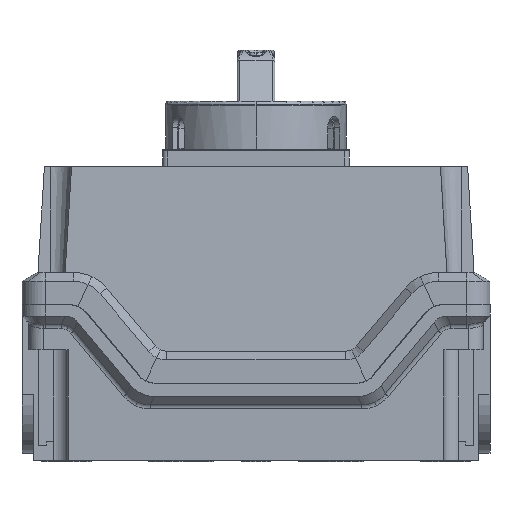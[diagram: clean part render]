
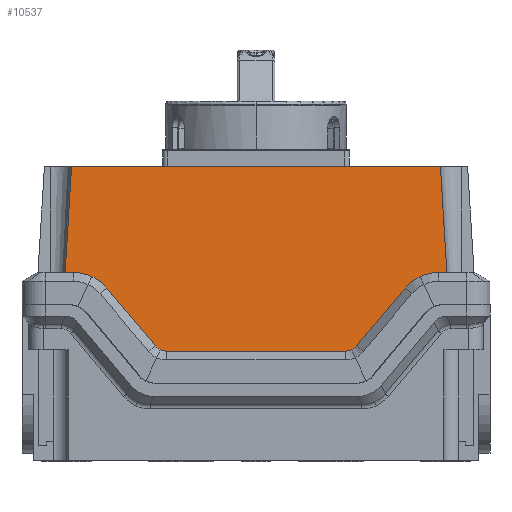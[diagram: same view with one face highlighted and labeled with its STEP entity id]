
A CAD part, front view. The second image highlights one B-rep face of the part: STEP entity #10537.
In plain terms, the highlighted planar face has unit normal (0, -0.998, 0.061).
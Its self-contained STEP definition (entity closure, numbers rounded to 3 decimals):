
#514 = VECTOR ( 'NONE', #39212, 1000. ) ;
#850 = CARTESIAN_POINT ( 'NONE',  ( 62.671, -56.376, 64.5 ) ) ;
#2661 = CARTESIAN_POINT ( 'NONE',  ( 77.15, -58.7, 26.5 ) ) ;
#2785 = ORIENTED_EDGE ( 'NONE', *, *, #31390, .F. ) ;
#4115 = CARTESIAN_POINT ( 'NONE',  ( 32.192, -58.027, 37.5 ) ) ;
#5762 = ORIENTED_EDGE ( 'NONE', *, *, #55503, .T. ) ;
#6066 = EDGE_CURVE ( 'NONE', #25078, #40819, #27799, .T. ) ;
#6065 = CARTESIAN_POINT ( 'NONE',  ( -63.28, -54.156, 100.8 ) ) ;
#6394 = DIRECTION ( 'NONE',  ( 0.061, 0.061, 0.996 ) ) ;
#6580 = CARTESIAN_POINT ( 'NONE',  ( -67.286, -58.162, 35.301 ) ) ;
#6702 = DIRECTION ( 'NONE',  ( -0.642, -0.047, -0.765 ) ) ;
#6720 = DIRECTION ( 'NONE',  ( -1., 0., 0. ) ) ;
#7064 =( BOUNDED_CURVE ( )  B_SPLINE_CURVE ( 3, ( #21037, #34830, #57541, #16496 ),
 .UNSPECIFIED., .F., .F. ) 
 B_SPLINE_CURVE_WITH_KNOTS ( ( 4, 4 ),
 ( 2.269, 3.142 ),
 .UNSPECIFIED. ) 
 CURVE ( )  GEOMETRIC_REPRESENTATION_ITEM ( )  RATIONAL_B_SPLINE_CURVE ( ( 1., 0.938, 0.938, 1. ) ) 
 REPRESENTATION_ITEM ( '' )  );
#8376 = CARTESIAN_POINT ( 'NONE',  ( 51.18, -56.704, 59.142 ) ) ;
#9516 = VERTEX_POINT ( 'NONE', #39191 ) ;
#9964 = LINE ( 'NONE', #45528, #11989 ) ;
#9969 = AXIS2_PLACEMENT_3D ( 'NONE', #2661, #43148, #34071 ) ;
#10127 = VERTEX_POINT ( 'NONE', #26873 ) ;
#10537 = ADVANCED_FACE ( 'NONE', ( #47519 ), #30138, .T. ) ;
#11769 = CARTESIAN_POINT ( 'NONE',  ( 51.18, -56.704, 59.142 ) ) ;
#11989 = VECTOR ( 'NONE', #50121, 1000. ) ;
#12350 = CARTESIAN_POINT ( 'NONE',  ( 58.163, -56.376, 64.5 ) ) ;
#12512 = CARTESIAN_POINT ( 'NONE',  ( 63.28, -54.156, 100.8 ) ) ;
#12535 = VERTEX_POINT ( 'NONE', #45336 ) ;
#12760 = ORIENTED_EDGE ( 'NONE', *, *, #27331, .T. ) ;
#12900 = CARTESIAN_POINT ( 'NONE',  ( 30.689, -58.027, 37.5 ) ) ;
#12966 = CARTESIAN_POINT ( 'NONE',  ( -62.671, -56.376, 64.5 ) ) ;
#13072 = LINE ( 'NONE', #57197, #514 ) ;
#13267 = VERTEX_POINT ( 'NONE', #12900 ) ;
#13393 = VECTOR ( 'NONE', #48901, 1000. ) ;
#14040 = DIRECTION ( 'NONE',  ( -0.642, 0.047, 0.765 ) ) ;
#14065 = LINE ( 'NONE', #15333, #16895 ) ;
#14193 = CARTESIAN_POINT ( 'NONE',  ( -34.519, -57.918, 39.286 ) ) ;
#15005 =( BOUNDED_CURVE ( )  B_SPLINE_CURVE ( 3, ( #21987, #4115, #53545, #58077 ),
 .UNSPECIFIED., .F., .F. ) 
 B_SPLINE_CURVE_WITH_KNOTS ( ( 4, 4 ),
 ( 3.142, 4.014 ),
 .UNSPECIFIED. ) 
 CURVE ( )  GEOMETRIC_REPRESENTATION_ITEM ( )  RATIONAL_B_SPLINE_CURVE ( ( 1., 0.938, 0.938, 1. ) ) 
 REPRESENTATION_ITEM ( '' )  );
#15253 = VECTOR ( 'NONE', #6720, 1000. ) ;
#15333 = CARTESIAN_POINT ( 'NONE',  ( 45.789, -57.097, 52.717 ) ) ;
#16496 = CARTESIAN_POINT ( 'NONE',  ( -30.689, -58.027, 37.5 ) ) ;
#16895 = VECTOR ( 'NONE', #6702, 1000. ) ;
#17114 = CARTESIAN_POINT ( 'NONE',  ( -54.078, -56.492, 62.595 ) ) ;
#18606 = EDGE_CURVE ( 'NONE', #13267, #26806, #15005, .T. ) ;
#18986 = DIRECTION ( 'NONE',  ( -1., 0., 0. ) ) ;
#19355 = ORIENTED_EDGE ( 'NONE', *, *, #31829, .F. ) ;
#19452 = LINE ( 'NONE', #6580, #26569 ) ;
#19539 = EDGE_LOOP ( 'NONE', ( #2785, #12760, #22691, #42498, #50560, #54198, #52427, #33024, #5762, #25484, #19355, #39687 ) ) ;
#21037 = CARTESIAN_POINT ( 'NONE',  ( -34.519, -57.918, 39.286 ) ) ;
#21987 = CARTESIAN_POINT ( 'NONE',  ( 30.689, -58.027, 37.5 ) ) ;
#22234 = VECTOR ( 'NONE', #18986, 1000. ) ;
#22426 = EDGE_CURVE ( 'NONE', #25078, #26806, #14065, .T. ) ;
#22691 = ORIENTED_EDGE ( 'NONE', *, *, #24847, .F. ) ;
#23539 = LINE ( 'NONE', #45383, #41133 ) ;
#24847 = EDGE_CURVE ( 'NONE', #13267, #33329, #30695, .T. ) ;
#24872 = VERTEX_POINT ( 'NONE', #51713 ) ;
#25078 = VERTEX_POINT ( 'NONE', #8376 ) ;
#25484 = ORIENTED_EDGE ( 'NONE', *, *, #33531, .F. ) ;
#26569 = VECTOR ( 'NONE', #6394, 1000. ) ;
#26806 = VERTEX_POINT ( 'NONE', #39299 ) ;
#26873 = CARTESIAN_POINT ( 'NONE',  ( -62.671, -56.376, 64.5 ) ) ;
#27331 = EDGE_CURVE ( 'NONE', #49758, #33329, #7064, .T. ) ;
#27799 =( BOUNDED_CURVE ( )  B_SPLINE_CURVE ( 3, ( #11769, #38941, #12350, #52608 ),
 .UNSPECIFIED., .F., .F. ) 
 B_SPLINE_CURVE_WITH_KNOTS ( ( 4, 4 ),
 ( 2.269, 3.142 ),
 .UNSPECIFIED. ) 
 CURVE ( )  GEOMETRIC_REPRESENTATION_ITEM ( )  RATIONAL_B_SPLINE_CURVE ( ( 1., 0.938, 0.938, 1. ) ) 
 REPRESENTATION_ITEM ( '' )  );
#30138 = PLANE ( 'NONE',  #9969 ) ;
#30695 = LINE ( 'NONE', #46003, #22234 ) ;
#30711 = CARTESIAN_POINT ( 'NONE',  ( -58.163, -56.376, 64.5 ) ) ;
#31390 = EDGE_CURVE ( 'NONE', #49758, #12535, #23539, .T. ) ;
#31829 = EDGE_CURVE ( 'NONE', #10127, #9516, #9964, .T. ) ;
#33024 = ORIENTED_EDGE ( 'NONE', *, *, #33617, .F. ) ;
#33329 = VERTEX_POINT ( 'NONE', #45784 ) ;
#33531 = EDGE_CURVE ( 'NONE', #9516, #53437, #19452, .T. ) ;
#33617 = EDGE_CURVE ( 'NONE', #38183, #24872, #13072, .T. ) ;
#34071 = DIRECTION ( 'NONE',  ( 0., -0.061, -0.998 ) ) ;
#34830 = CARTESIAN_POINT ( 'NONE',  ( -33.553, -57.988, 38.135 ) ) ;
#37344 = LINE ( 'NONE', #39556, #13393 ) ;
#37356 =( BOUNDED_CURVE ( )  B_SPLINE_CURVE ( 3, ( #12966, #30711, #17114, #48699 ),
 .UNSPECIFIED., .F., .F. ) 
 B_SPLINE_CURVE_WITH_KNOTS ( ( 4, 4 ),
 ( 0., 0.873 ),
 .UNSPECIFIED. ) 
 CURVE ( )  GEOMETRIC_REPRESENTATION_ITEM ( )  RATIONAL_B_SPLINE_CURVE ( ( 1., 0.938, 0.938, 1. ) ) 
 REPRESENTATION_ITEM ( '' )  );
#38183 = VERTEX_POINT ( 'NONE', #12512 ) ;
#38941 = CARTESIAN_POINT ( 'NONE',  ( 54.078, -56.492, 62.595 ) ) ;
#39191 = CARTESIAN_POINT ( 'NONE',  ( -65.5, -56.376, 64.5 ) ) ;
#39212 = DIRECTION ( 'NONE',  ( 0.061, -0.061, -0.996 ) ) ;
#39299 = CARTESIAN_POINT ( 'NONE',  ( 34.519, -57.918, 39.286 ) ) ;
#39556 = CARTESIAN_POINT ( 'NONE',  ( 77.15, -56.376, 64.5 ) ) ;
#39687 = ORIENTED_EDGE ( 'NONE', *, *, #40525, .T. ) ;
#39890 = LINE ( 'NONE', #56201, #15253 ) ;
#40525 = EDGE_CURVE ( 'NONE', #10127, #12535, #37356, .T. ) ;
#40819 = VERTEX_POINT ( 'NONE', #850 ) ;
#41133 = VECTOR ( 'NONE', #14040, 1000. ) ;
#42498 = ORIENTED_EDGE ( 'NONE', *, *, #18606, .T. ) ;
#43148 = DIRECTION ( 'NONE',  ( 0., -0.998, 0.061 ) ) ;
#45336 = CARTESIAN_POINT ( 'NONE',  ( -51.18, -56.704, 59.142 ) ) ;
#45383 = CARTESIAN_POINT ( 'NONE',  ( 17.824, -61.733, -23.095 ) ) ;
#45528 = CARTESIAN_POINT ( 'NONE',  ( 77.15, -56.376, 64.5 ) ) ;
#45784 = CARTESIAN_POINT ( 'NONE',  ( -30.689, -58.027, 37.5 ) ) ;
#46003 = CARTESIAN_POINT ( 'NONE',  ( 77.15, -58.027, 37.5 ) ) ;
#47519 = FACE_OUTER_BOUND ( 'NONE', #19539, .T. ) ;
#48699 = CARTESIAN_POINT ( 'NONE',  ( -51.18, -56.704, 59.142 ) ) ;
#48901 = DIRECTION ( 'NONE',  ( -1., 0., 0. ) ) ;
#49758 = VERTEX_POINT ( 'NONE', #14193 ) ;
#50057 = EDGE_CURVE ( 'NONE', #24872, #40819, #37344, .T. ) ;
#50121 = DIRECTION ( 'NONE',  ( -1., 0., 0. ) ) ;
#50560 = ORIENTED_EDGE ( 'NONE', *, *, #22426, .F. ) ;
#51713 = CARTESIAN_POINT ( 'NONE',  ( 65.5, -56.376, 64.5 ) ) ;
#52427 = ORIENTED_EDGE ( 'NONE', *, *, #50057, .F. ) ;
#52608 = CARTESIAN_POINT ( 'NONE',  ( 62.671, -56.376, 64.5 ) ) ;
#53437 = VERTEX_POINT ( 'NONE', #6065 ) ;
#53545 = CARTESIAN_POINT ( 'NONE',  ( 33.553, -57.988, 38.135 ) ) ;
#54198 = ORIENTED_EDGE ( 'NONE', *, *, #6066, .T. ) ;
#55503 = EDGE_CURVE ( 'NONE', #38183, #53437, #39890, .T. ) ;
#56201 = CARTESIAN_POINT ( 'NONE',  ( 77.15, -54.156, 100.8 ) ) ;
#57197 = CARTESIAN_POINT ( 'NONE',  ( 67.859, -58.735, 25.934 ) ) ;
#57541 = CARTESIAN_POINT ( 'NONE',  ( -32.192, -58.027, 37.5 ) ) ;
#58077 = CARTESIAN_POINT ( 'NONE',  ( 34.519, -57.918, 39.286 ) ) ;
